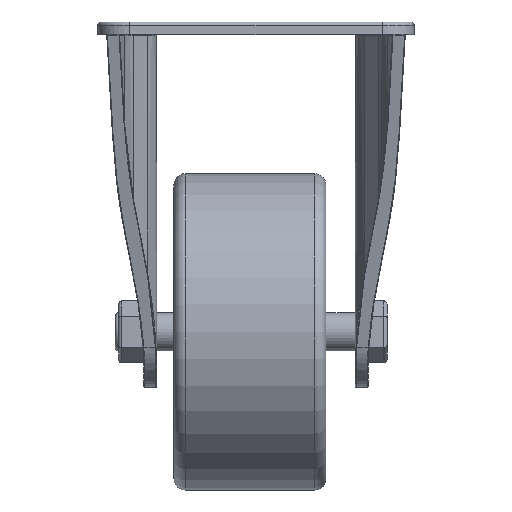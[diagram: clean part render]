
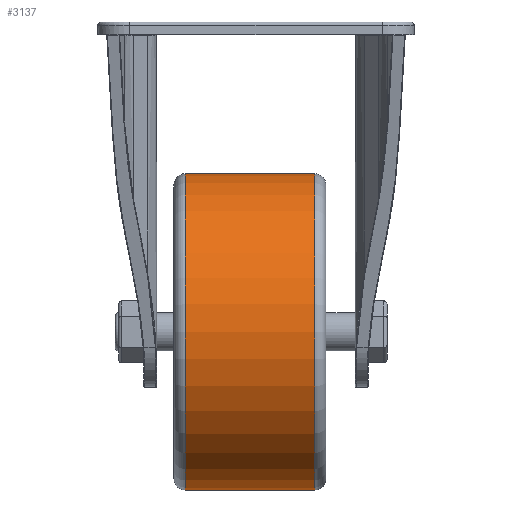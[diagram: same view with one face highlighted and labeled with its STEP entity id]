
A CAD part, left-side view. The second image highlights one B-rep face of the part: STEP entity #3137.
In plain terms, the highlighted cylindrical face has radius 50 mm (diameter 100 mm), a full revolution.
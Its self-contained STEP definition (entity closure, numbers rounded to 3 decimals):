
#3137=ADVANCED_FACE('',(#3436,#3437),#3352,.T.);
#3352=CYLINDRICAL_SURFACE('',#11309,50.);
#3436=FACE_BOUND('',#4122,.T.);
#3437=FACE_BOUND('',#4123,.T.);
#4122=EDGE_LOOP('',(#7116));
#4123=EDGE_LOOP('',(#7117));
#7116=ORIENTED_EDGE('',*,*,#9541,.T.);
#7117=ORIENTED_EDGE('',*,*,#9542,.T.);
#8044=VERTEX_POINT('',#19134);
#8045=VERTEX_POINT('',#19136);
#9541=EDGE_CURVE('',#8044,#8044,#10132,.T.);
#9542=EDGE_CURVE('',#8045,#8045,#10133,.T.);
#10132=CIRCLE('',#11307,50.);
#10133=CIRCLE('',#11308,50.);
#11307=AXIS2_PLACEMENT_3D('',#19133,#14243,#14244);
#11308=AXIS2_PLACEMENT_3D('',#19135,#14245,#14246);
#11309=AXIS2_PLACEMENT_3D('',#19137,#14247,#14248);
#14243=DIRECTION('',(0.,1.,0.));
#14244=DIRECTION('',(-1.,0.,0.));
#14245=DIRECTION('',(0.,-1.,0.));
#14246=DIRECTION('',(-1.,0.,0.));
#14247=DIRECTION('',(0.,1.,0.));
#14248=DIRECTION('',(-1.,0.,0.));
#19133=CARTESIAN_POINT('',(-0.001,-18.56,-98.));
#19134=CARTESIAN_POINT('',(-50.001,-18.56,-98.));
#19135=CARTESIAN_POINT('',(-0.001,22.44,-98.));
#19136=CARTESIAN_POINT('',(-50.001,22.44,-98.));
#19137=CARTESIAN_POINT('',(-0.001,-22.06,-98.));
